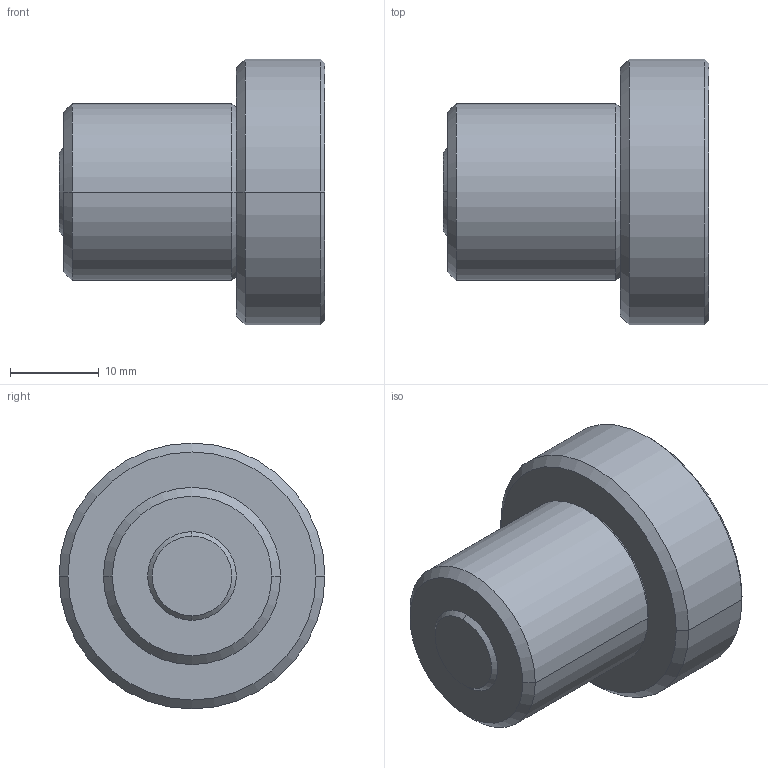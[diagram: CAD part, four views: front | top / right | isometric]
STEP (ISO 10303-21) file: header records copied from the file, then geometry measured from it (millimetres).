
FILE_DESCRIPTION((''),'2;1');
FILE_NAME('S600-3','2006-08-10T',('PAw'),(''),'PRO/ENGINEER BY PARAMETRIC TECHNOLOGY CORPORATION, 2004320','PRO/ENGINEER BY PARAMETRIC TECHNOLOGY CORPORATION, 2004320','');
FILE_SCHEMA(('CONFIG_CONTROL_DESIGN'));
Length unit declared in the file: millimetre
Products named in the file (1): S600-3
Bounding box: 30 x 30 x 30 mm (x, y, z)
Volume: 13134.3 mm3; surface area: 3507.6 mm2
Topology: 1 solids, 1 shells, 18 faces, 34 edges, 20 vertices
Faces by surface type: cone 10, plane 4, cylinder 4
Entity records: 492 total; most frequent: DIRECTION 90, CARTESIAN_POINT 72, ORIENTED_EDGE 68, AXIS2_PLACEMENT_3D 38, EDGE_CURVE 34, VERTEX_POINT 20, EDGE_LOOP 20, CIRCLE 20
